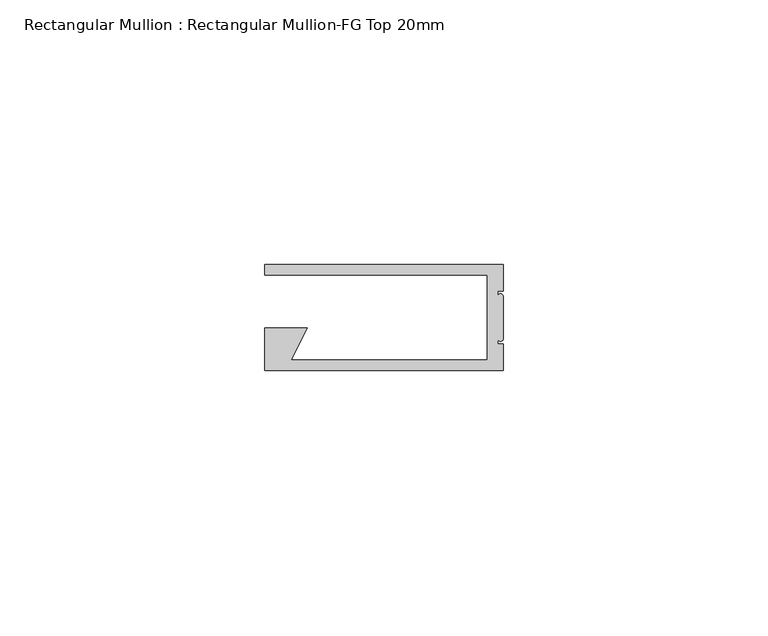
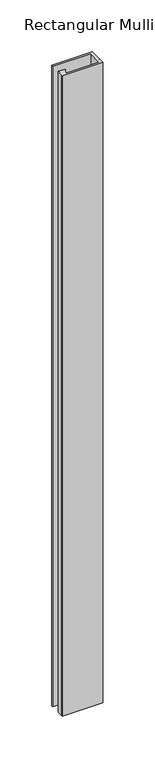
"""IFC4 building model written with IfcOpenShell, lengths in millimetres: member geometry, Rectangular Mullion : Rectangular Mullion-FG Top 20mm."""

from ifc_helpers import new_model, si_unit, frame, origin, place, context, project, spatial, circle_curve, source, transform, mapped, element, save
from ifc_brep_helpers import plane_surface, cylinder_surface, advanced_brep


def rectangular_mullion_rectangular_mullion_fg_top_20mm_db12e461(model_context):
    return source(origin(), model_context, "Body", "AdvancedBrep", [
        advanced_brep(
        [(0.0, -5.0, 0.0), (0.0, 0.0, 0.0), (-45.0, 0.0, 0.0), (-45.0, -2.0, 0.0), (-3.0, -2.0, 0.0), (-3.0, -18.0, 0.0), (-40.0, -18.0, 0.0), (-37.0, -12.0, 0.0), (-45.0, -12.0, 0.0), (-45.0, -18.0, 0.0), (-45.0, -20.0, 0.0), (0.0, -20.0, 0.0), (0.0, -15.0, 0.0), (-1.0, -15.0, 0.0), (-1.0, -14.0, 0.0), (0.0, -14.0, 0.0), (0.0, -6.0, 0.0), (-1.0, -6.0, 0.0), (-1.0, -5.0, 0.0), (0.0, -5.0, -754.0), (-1.0, -5.0, -754.0), (-1.0, -6.0, -754.0), (0.0, -6.0, -754.0), (0.0, -14.0, -754.0), (-1.0, -14.0, -754.0), (-1.0, -15.0, -754.0), (0.0, -15.0, -754.0), (0.0, -20.0, -754.0), (-45.0, -20.0, -754.0), (-45.0, -18.0, -754.0), (-45.0, -12.0, -754.0), (-37.0, -12.0, -754.0), (-40.0, -18.0, -754.0), (-3.0, -18.0, -754.0), (-3.0, -2.0, -754.0), (-45.0, -2.0, -754.0), (-45.0, 0.0, -754.0), (0.0, 0.0, -754.0)],
        [
            (0, 1),
            (1, 2),
            (2, 3),
            (3, 4),
            (4, 5),
            (5, 6),
            (6, 7),
            (7, 8),
            (8, 9),
            (9, 10),
            (10, 11),
            (11, 12),
            (12, 13),
            (13, 14),
            (14, 15, circle_curve(frame((-0.5, -14.0, 0.0), z_axis=(0.0, 0.0, 1.0), x_axis=(1.0, 0.0, 0.0)), 0.5)),
            (15, 16),
            (16, 17, circle_curve(frame((-0.5, -6.0, 0.0), z_axis=(0.0, 0.0, 1.0), x_axis=(1.0, 0.0, 0.0)), 0.5)),
            (17, 18),
            (18, 0),
            (19, 20),
            (20, 21),
            (21, 22, circle_curve(frame((-0.5, -6.0, -754.0), z_axis=(0.0, 0.0, -1.0), x_axis=(1.0, 0.0, 0.0)), 0.5)),
            (22, 23),
            (23, 24, circle_curve(frame((-0.5, -14.0, -754.0), z_axis=(0.0, 0.0, -1.0), x_axis=(1.0, 0.0, 0.0)), 0.5)),
            (24, 25),
            (25, 26),
            (26, 27),
            (27, 28),
            (28, 29),
            (29, 30),
            (30, 31),
            (31, 32),
            (32, 33),
            (33, 34),
            (34, 35),
            (35, 36),
            (36, 37),
            (37, 19),
            (0, 19),
            (37, 1),
            (36, 2),
            (35, 3),
            (34, 4),
            (33, 5),
            (32, 6),
            (31, 7),
            (30, 8),
            (29, 9),
            (28, 10),
            (27, 11),
            (26, 12),
            (25, 13),
            (24, 14),
            (23, 15),
            (22, 16),
            (21, 17),
            (20, 18),
        ],
        [
            plane_surface(frame((0.0, -49.244289, 0.0), z_axis=(0.0, 0.0, 1.0), x_axis=(-1.0, 0.0, 0.0))),
            plane_surface(frame((0.0, -49.244289, -754.0), z_axis=(0.0, 0.0, -1.0), x_axis=(-1.0, 0.0, 0.0))),
            plane_surface(frame((0.0, -5.0, 0.0), z_axis=(1.0, 0.0, 0.0), x_axis=(0.0, 0.0, -1.0))),
            plane_surface(frame((0.0, 0.0, 0.0), z_axis=(0.0, 1.0, 0.0), x_axis=(0.0, 0.0, -1.0))),
            plane_surface(frame((-45.0, 0.0, 0.0), z_axis=(-1.0, 0.0, 0.0), x_axis=(0.0, 0.0, -1.0))),
            plane_surface(frame((-45.0, -2.0, 0.0), z_axis=(0.0, -1.0, 0.0), x_axis=(0.0, 0.0, -1.0))),
            plane_surface(frame((-3.0, -2.0, 0.0), z_axis=(-1.0, 0.0, 0.0), x_axis=(0.0, 0.0, -1.0))),
            plane_surface(frame((-3.0, -18.0, 0.0), z_axis=(0.0, 1.0, 0.0), x_axis=(0.0, 0.0, -1.0))),
            plane_surface(frame((-40.0, -18.0, 0.0), z_axis=(0.8944271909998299, -0.4472135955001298, 0.0), x_axis=(0.0, 0.0, -1.0))),
            plane_surface(frame((-37.0, -12.0, 0.0), z_axis=(0.0, 1.0, 0.0), x_axis=(0.0, 0.0, -1.0))),
            plane_surface(frame((-45.0, -12.0, 0.0), z_axis=(-1.0, 0.0, 0.0), x_axis=(0.0, 0.0, -1.0))),
            plane_surface(frame((-45.0, -18.0, 0.0), z_axis=(-1.0, 0.0, 0.0), x_axis=(0.0, 0.0, -1.0))),
            plane_surface(frame((-45.0, -20.0, 0.0), z_axis=(0.0, -1.0, 0.0), x_axis=(0.0, 0.0, -1.0))),
            plane_surface(frame((0.0, -20.0, 0.0), z_axis=(1.0, 0.0, 0.0), x_axis=(0.0, 0.0, -1.0))),
            plane_surface(frame((0.0, -15.0, 0.0), z_axis=(0.0, 1.0, 0.0), x_axis=(0.0, 0.0, -1.0))),
            plane_surface(frame((-1.0, -15.0, 0.0), z_axis=(1.0, 0.0, 0.0), x_axis=(0.0, 0.0, -1.0))),
            cylinder_surface(frame((-0.5, -14.0, 0.0), z_axis=(0.0, 0.0, 1.0), x_axis=(1.0, 0.0, 0.0)), 0.5),
            plane_surface(frame((0.0, -14.0, 0.0), z_axis=(1.0, 0.0, 0.0), x_axis=(0.0, 0.0, -1.0))),
            cylinder_surface(frame((-0.5, -6.0, 0.0), z_axis=(0.0, 0.0, 1.0), x_axis=(1.0, 0.0, 0.0)), 0.5),
            plane_surface(frame((-1.0, -6.0, 0.0), z_axis=(1.0, 0.0, 0.0), x_axis=(0.0, 0.0, -1.0))),
            plane_surface(frame((-1.0, -5.0, 0.0), z_axis=(0.0, -1.0, 0.0), x_axis=(0.0, 0.0, -1.0))),
        ],
        [
            (0, [[1, 2, 3, 4, 5, 6, 7, 8, 9, 10, 11, 12, 13, 14, 15, 16, 17, 18, 19]]),
            (1, [[20, 21, 22, 23, 24, 25, 26, 27, 28, 29, 30, 31, 32, 33, 34, 35, 36, 37, 38]]),
            (2, [[-1, 39, -38, 40]]),
            (3, [[-2, -40, -37, 41]]),
            (4, [[-3, -41, -36, 42]]),
            (5, [[-4, -42, -35, 43]]),
            (6, [[-5, -43, -34, 44]]),
            (7, [[-6, -44, -33, 45]]),
            (8, [[-7, -45, -32, 46]]),
            (9, [[-8, -46, -31, 47]]),
            (10, [[-9, -47, -30, 48]]),
            (11, [[-10, -48, -29, 49]]),
            (12, [[-11, -49, -28, 50]]),
            (13, [[-12, -50, -27, 51]]),
            (14, [[-13, -51, -26, 52]]),
            (15, [[-14, -52, -25, 53]]),
            (16, [[-15, -53, -24, 54]]),
            (17, [[-16, -54, -23, 55]]),
            (18, [[-17, -55, -22, 56]]),
            (19, [[-18, -56, -21, 57]]),
            (20, [[-19, -57, -20, -39]]),
        ],
    ),
    ])


if __name__ == "__main__":
    model = new_model("IFC4")
    model_context = context("Model", 3, world=origin())
    ifc_project = project(units=[si_unit("LENGTHUNIT", "METRE", prefix="MILLI")], contexts=[model_context])
    site = spatial("IfcSite", under=ifc_project)
    building = spatial("IfcBuilding", under=site)
    placement = place(None, origin())
    rectangular_mullion_rectangular_mullion_fg_top_20mm_shape = rectangular_mullion_rectangular_mullion_fg_top_20mm_db12e461(model_context)
    element("IfcMember", 1, ObjectType="Rectangular Mullion : Rectangular Mullion-FG Top 20mm", at=placement, inside=building, context=model_context, shape_type="MappedRepresentation", body=[
        mapped(rectangular_mullion_rectangular_mullion_fg_top_20mm_shape, transform((0.0, 0.0, 0.0), x_axis=(1.0, 0.0, 0.0), y_axis=(0.0, 1.0, 0.0), z_axis=(0.0, 0.0, 1.0))),
    ])
    save(model, "model.ifc")
